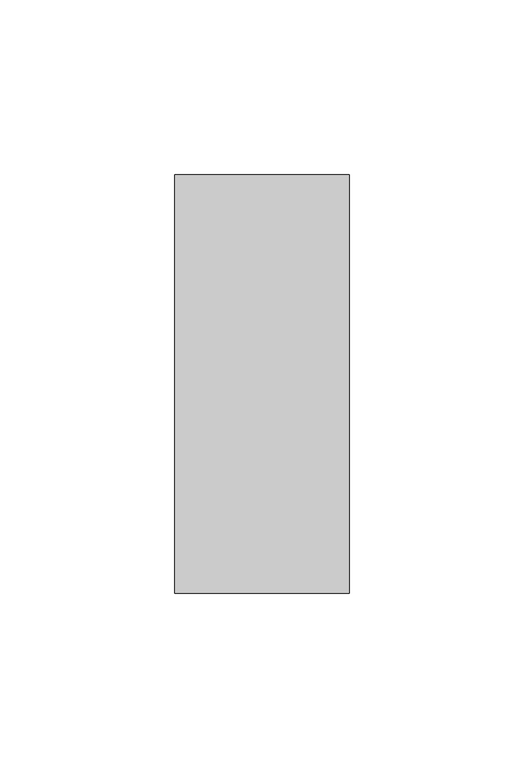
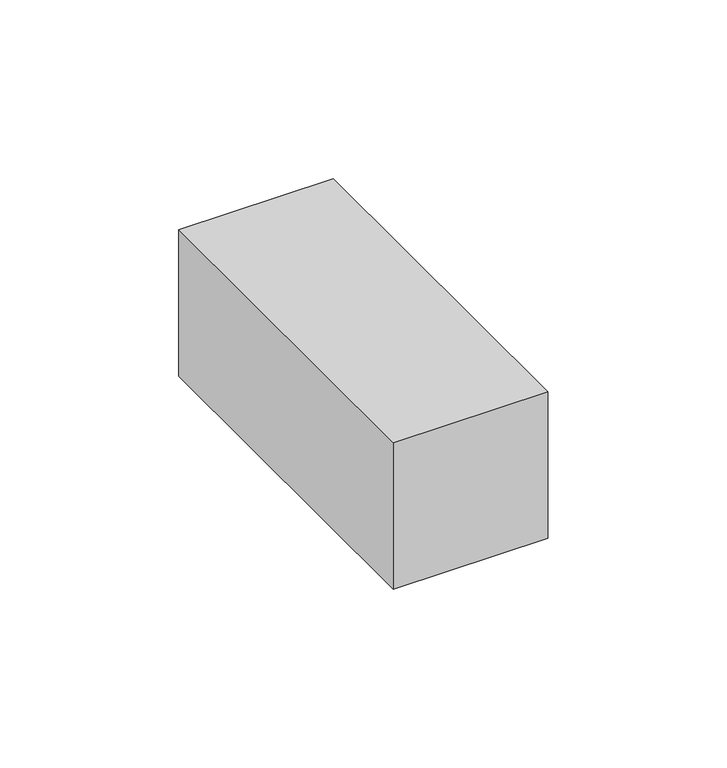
"""IFC4 building model written with IfcOpenShell, lengths in millimetres: member geometry, Прямоугольный импост : 50х120 мм."""

from ifc_helpers import new_model, si_unit, frame, origin, place, context, project, spatial, polyline, outline, extrude, source, transform, mapped, element, save


def member_8a05520d(model_context):
    return source(origin(), model_context, "Body", "SweptSolid", [
        extrude(outline(polyline([(0.0, 60.0), (0.0, -60.0), (-50.0, -60.0), (-50.0, 60.0), (0.0, 60.0)])), frame((0.0, 0.0, -50.0), z_axis=(0.0, 0.0, 1.0), x_axis=(1.0, 0.0, 0.0)), (0.0, 0.0, 1.0), 50.0),
    ])


if __name__ == "__main__":
    model = new_model("IFC4")
    model_context = context("Model", 3, world=origin())
    ifc_project = project(units=[si_unit("LENGTHUNIT", "METRE", prefix="MILLI")], contexts=[model_context])
    site = spatial("IfcSite", under=ifc_project)
    building = spatial("IfcBuilding", under=site)
    placement = place(None, origin())
    member_shape = member_8a05520d(model_context)
    element("IfcMember", 1, ObjectType="Прямоугольный импост : 50х120 мм", at=placement, inside=building, context=model_context, shape_type="MappedRepresentation", body=[
        mapped(member_shape, transform((0.0, 0.0, 0.0), x_axis=(1.0, 0.0, 0.0), y_axis=(0.0, 1.0, 0.0), z_axis=(0.0, 0.0, 1.0))),
    ])
    save(model, "model.ifc")
